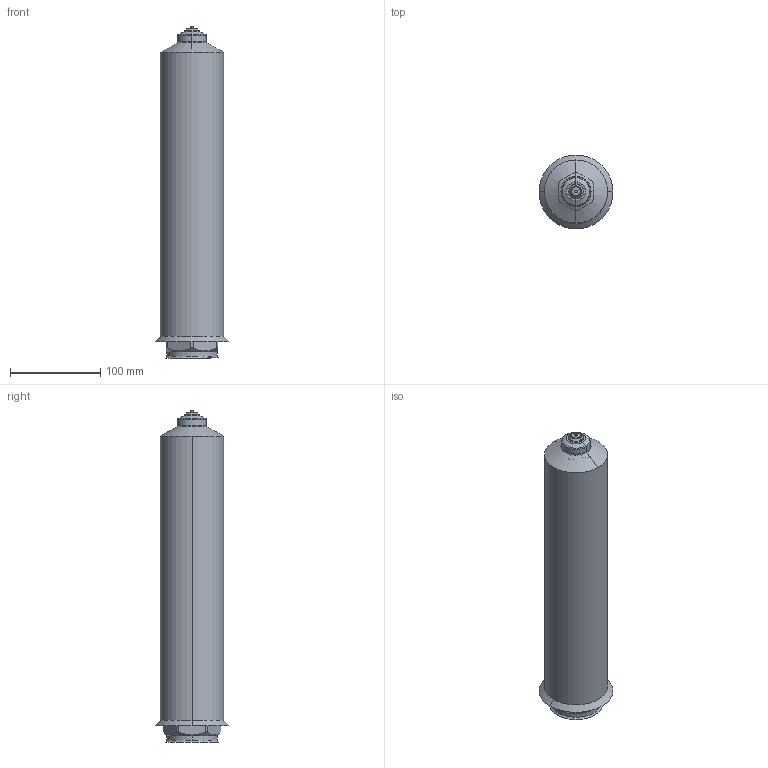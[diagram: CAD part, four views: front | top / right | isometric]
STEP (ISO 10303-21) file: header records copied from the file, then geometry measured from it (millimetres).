
FILE_DESCRIPTION (( 'STEP AP214' ), '1' );
FILE_NAME ('T24_OPEN_350_HELICAL.STEP', '2009-05-11T13:35:03', ( 'Synventive Molding Solutions' ), ( 'Synventive Molding Solutions' ), 'SwSTEP 2.0', 'SolidWorks 2008', '' );
FILE_SCHEMA (( 'AUTOMOTIVE_DESIGN' ));
Length unit declared in the file: millimetre
Products named in the file (1): T24_OPEN_350_HELICAL
Bounding box: 82 x 82 x 368 mm (x, y, z)
Volume: 2056844.3 mm3; surface area: 163523.4 mm2
Topology: 2 solids, 2 shells, 222 faces, 588 edges, 375 vertices
Faces by surface type: cylinder 77, plane 65, cone 29, bspline 27, torus 24
Entity records: 19112 total; most frequent: CARTESIAN_POINT 11479, ORIENTED_EDGE 1176, DIRECTION 1008, EDGE_CURVE 588, AXIS2_PLACEMENT_3D 393, VERTEX_POINT 375, EDGE_LOOP 233, UNCERTAINTY_MEASURE_WITH_UNIT 224
